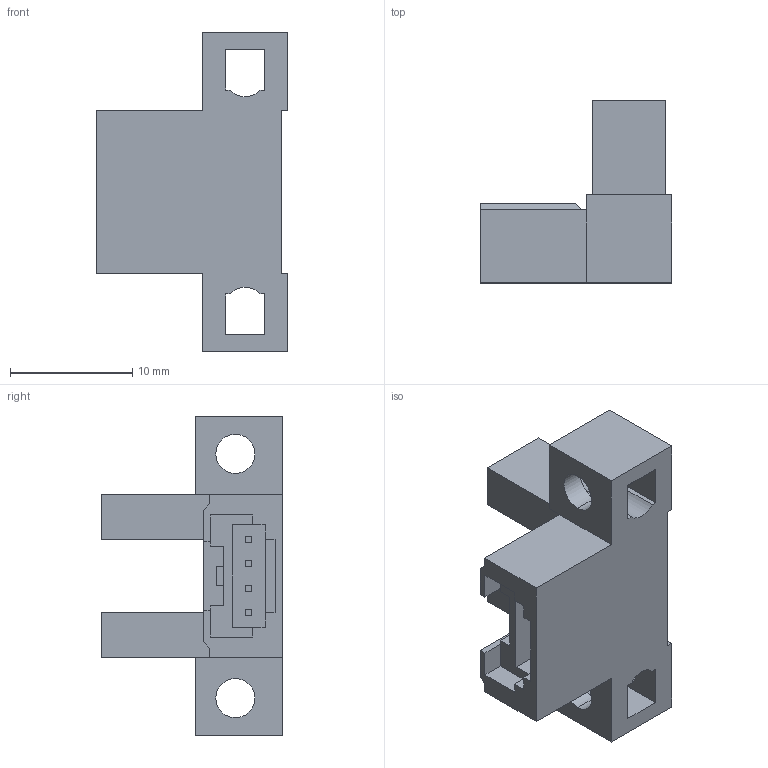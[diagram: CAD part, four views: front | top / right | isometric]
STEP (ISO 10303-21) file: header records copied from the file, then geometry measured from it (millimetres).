
FILE_DESCRIPTION (( 'STEP AP203' ), '1' );
FILE_NAME ('pm-l65.STEP', '2015-08-07T08:09:12', ( '' ), ( '' ), 'SwSTEP 2.0', 'SolidWorks 2010', '' );
FILE_SCHEMA (( 'CONFIG_CONTROL_DESIGN' ));
Length unit declared in the file: millimetre
Products named in the file (1): pm-l65
Bounding box: 15.7 x 14.9 x 26.2 mm (x, y, z)
Volume: 1877.5 mm3; surface area: 1822.8 mm2
Topology: 1 solids, 1 shells, 134 faces, 359 edges, 236 vertices
Faces by surface type: plane 123, cylinder 11
Entity records: 4206 total; most frequent: CARTESIAN_POINT 730, ORIENTED_EDGE 718, DIRECTION 651, EDGE_CURVE 359, LINE 337, VECTOR 337, VERTEX_POINT 236, AXIS2_PLACEMENT_3D 157
